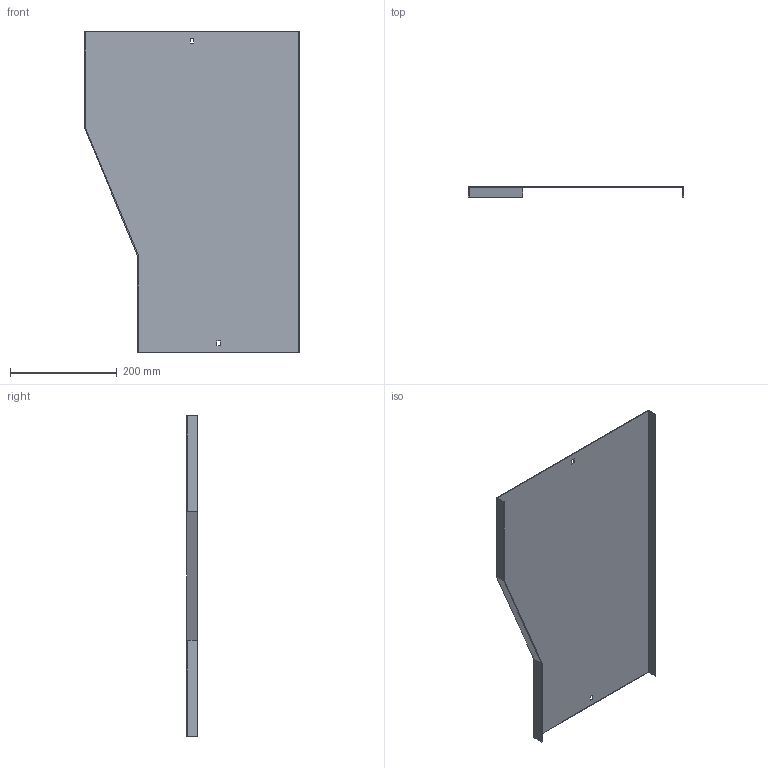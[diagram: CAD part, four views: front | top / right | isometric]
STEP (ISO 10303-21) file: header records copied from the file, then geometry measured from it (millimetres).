
FILE_DESCRIPTION (( 'STEP AP214' ), '1' );
FILE_NAME ('B2X21N3R400X.step', '2025-09-02T15:44:40', ( '' ), ( '' ), 'SwSTEP 2.0', 'SolidWorks 2023', '' );
FILE_SCHEMA (( 'AUTOMOTIVE_DESIGN' ));
Length unit declared in the file: millimetre
Products named in the file (1): B2X21N3R400X
Bounding box: 403 x 20 x 600 mm (x, y, z)
Volume: 351379.5 mm3; surface area: 471599 mm2
Topology: 1 solids, 1 shells, 22 faces, 60 edges, 40 vertices
Faces by surface type: plane 22
Entity records: 715 total; most frequent: CARTESIAN_POINT 123, ORIENTED_EDGE 120, DIRECTION 106, LINE 60, EDGE_CURVE 60, VECTOR 60, VERTEX_POINT 40, EDGE_LOOP 26
